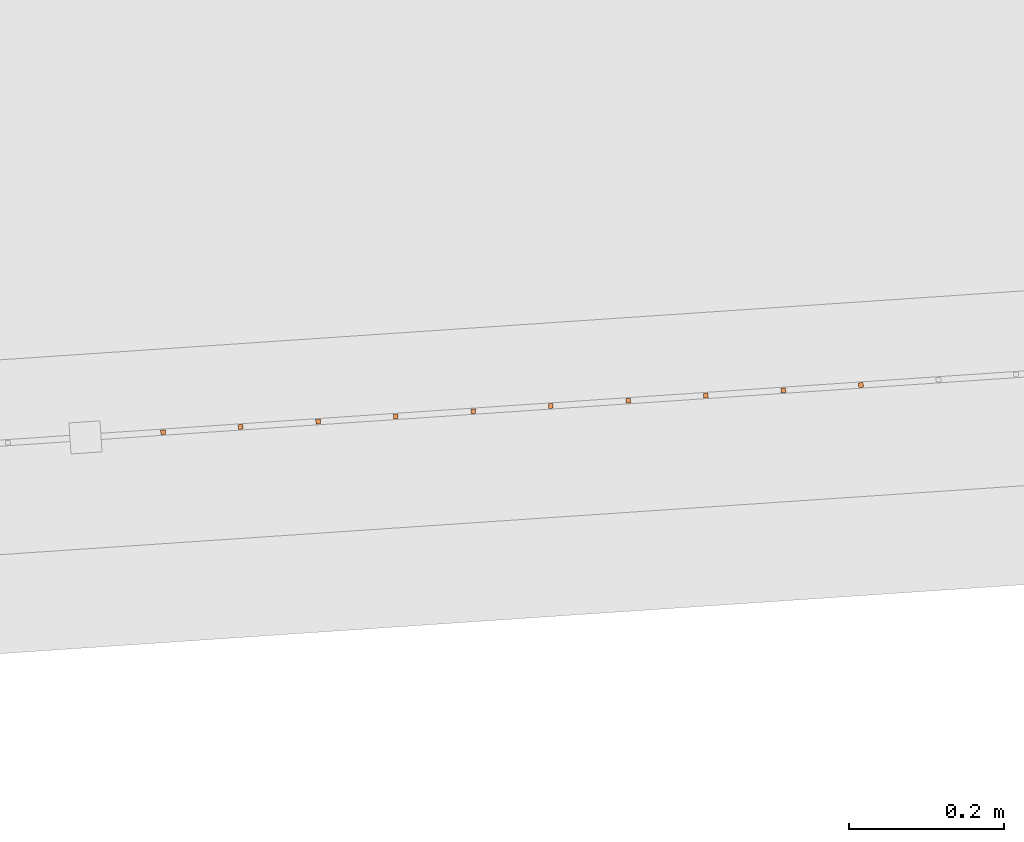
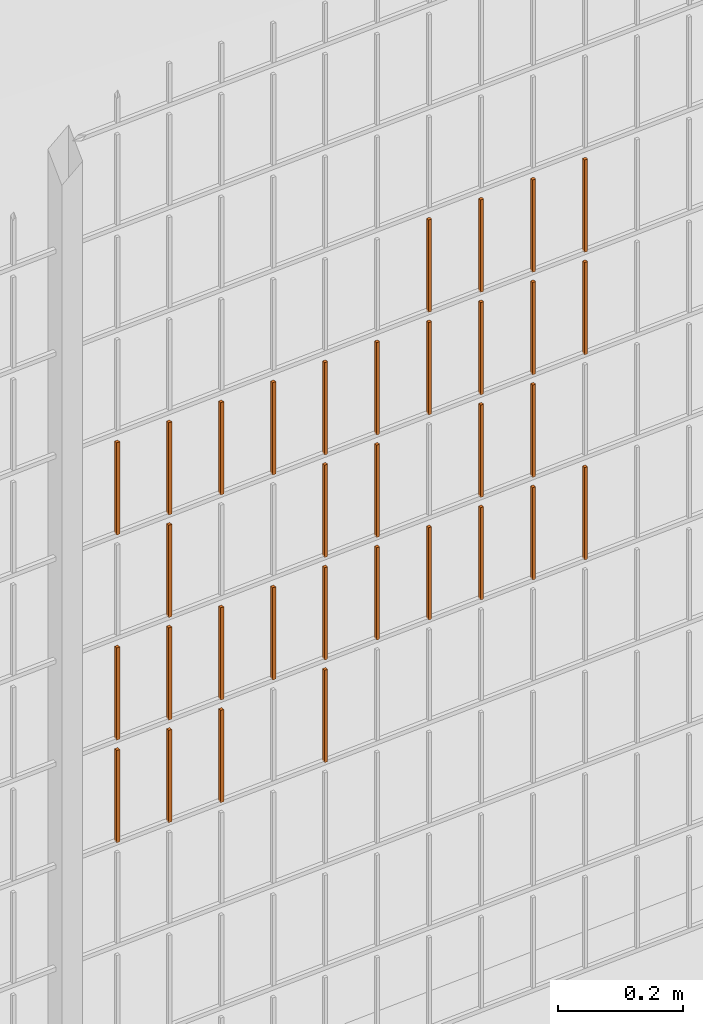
# One storey, part 308 of 1809: 33 proxies, 1 element without a shape of its own.
"""IFC2X3 building model written with IfcOpenShell, lengths in millimetres."""

from ifc_helpers import new_model, entity, si_unit, converted_unit, derived_unit, money_unit, direction, frame, origin_with_axes, place, context, subcontext, project, spatial, faceted_brep, source, transform, mapped, material, type_object, element, aggregate, save


model = new_model("IFC2X3")

# Units and contexts
model_context = context("Model", 3, precision=0.01, world=origin_with_axes(), true_north=direction((0.0, 1.0)))
body_context = subcontext(model_context, "Body", "Model", "MODEL_VIEW")
ifc_project = project(units=[si_unit("LENGTHUNIT", "METRE", prefix="MILLI"), si_unit("AREAUNIT", "SQUARE_METRE"), si_unit("VOLUMEUNIT", "CUBIC_METRE"), converted_unit("PLANEANGLEUNIT", "DEGREE", entity("IfcPlaneAngleMeasure", 0.0174532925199), si_unit("PLANEANGLEUNIT", "RADIAN"), dimensions=[0, 0, 0, 0, 0, 0, 0]), si_unit("SOLIDANGLEUNIT", "STERADIAN"), money_unit("EUR"), converted_unit("TIMEUNIT", "Year", entity("IfcTimeMeasure", 31556926.0), si_unit("TIMEUNIT", "SECOND"), dimensions=[0, 0, 1, 0, 0, 0, 0]), si_unit("MASSUNIT", "GRAM", prefix="KILO"), si_unit("THERMODYNAMICTEMPERATUREUNIT", "DEGREE_CELSIUS"), si_unit("LUMINOUSINTENSITYUNIT", "LUMEN"), si_unit("ENERGYUNIT", "JOULE", prefix="MEGA"), derived_unit("THERMALCONDUCTANCEUNIT", [(si_unit("POWERUNIT", "WATT"), 1), (si_unit("LENGTHUNIT", "METRE"), -1), (si_unit("THERMODYNAMICTEMPERATUREUNIT", "KELVIN"), -1)]), derived_unit("SPECIFICHEATCAPACITYUNIT", [(si_unit("ENERGYUNIT", "JOULE"), 1), (si_unit("MASSUNIT", "GRAM", prefix="KILO"), -1), (si_unit("THERMODYNAMICTEMPERATUREUNIT", "KELVIN"), -1)]), derived_unit("MASSDENSITYUNIT", [(si_unit("MASSUNIT", "GRAM", prefix="KILO"), 1), (si_unit("VOLUMEUNIT", "CUBIC_METRE"), -1)])], contexts=[model_context])

# Site, building, storey
site_placement = place(None, origin_with_axes())
site = spatial("IfcSite", under=ifc_project, at=site_placement, Name="Politse- ja Piirivalveameti ning Päästeameti ühishoone", CompositionType="ELEMENT")
building_placement = place(site_placement, origin_with_axes())
building = spatial("IfcBuilding", under=site, at=building_placement, Name="Politse- ja Piirivalveameti ning Päästeameti ühishoone", CompositionType="ELEMENT")
storey_placement = place(building_placement, origin_with_axes())
storey = spatial("IfcBuildingStorey", under=building, at=storey_placement, Name="Esimene korrus", CompositionType="ELEMENT", Elevation=0.0)

# Proxies
building_element_proxy_type_1 = type_object("IfcBuildingElementProxyType", Name="Railing Type", PredefinedType="NOTDEFINED")
proxy_1_placement = place(storey_placement, frame((89252.001212, -29183.4766571, 203.661247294), z_axis=(0.0, 0.0, 1.0), x_axis=(1.0, 0.0, 0.0)))
proxy_1 = element("IfcBuildingElementProxy", 1, at=proxy_1_placement, inside=storey, type_object=building_element_proxy_type_1, Name="PIIRDEAED")
ifc_material = material(Name="ET-03_Raud")
building_element_proxy_type_2 = type_object("IfcBuildingElementProxyType", Name="IfcBuildingElementProxy", PredefinedType="NOTDEFINED")
shared_shape_1 = source(origin_with_axes(), body_context, "Body", "Brep", [
    faceted_brep([(3.0, 3.0, -0.000752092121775), (-3.0, 3.0, -0.000752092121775), (-3.0, 3.0, 179.99926046), (3.0, 3.0, 179.99926046), (3.0, -3.0, 0.000752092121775), (-3.0, -3.0, 0.000752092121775), (-3.0, -3.0, 180.000764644), (3.0, -3.0, 180.000764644)], [[[0, 1, 2, 3]], [[0, 4, 5, 1]], [[1, 5, 6, 2]], [[3, 2, 6, 7]], [[4, 0, 3, 7]], [[5, 4, 7, 6]]]),
])
proxy_2_placement = place(proxy_1_placement, frame((-41532.0509529, -20103.1080672, 1216.79868415), z_axis=(0.0, 0.0, 1.0), x_axis=(1.0, 0.0, 0.0)))
proxy_2 = element("IfcBuildingElementProxy", 2, at=proxy_2_placement, type_object=building_element_proxy_type_2, material=ifc_material, Name="BALUSTER - 001", context=body_context, shape_type="MappedRepresentation", body=[
    mapped(shared_shape_1, transform((0.0, 0.0, 0.0), x_axis=(-0.0673926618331, 0.997726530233, 0.0), y_axis=(-0.997726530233, -0.0673926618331, 0.0), z_axis=(0.0, 0.0, 1.0))),
])
shared_shape_2 = source(origin_with_axes(), body_context, "Body", "Brep", [
    faceted_brep([(3.0, 3.0, -0.000752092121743), (-3.0, 3.0, -0.000752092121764), (-3.0, 3.0, 179.99926046), (3.0, 3.0, 179.99926046), (3.0, -3.0, 0.000752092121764), (-3.0, -3.0, 0.000752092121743), (-3.0, -3.0, 180.000764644), (3.0, -3.0, 180.000764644)], [[[0, 1, 2, 3]], [[0, 4, 5, 1]], [[1, 5, 6, 2]], [[3, 2, 6, 7]], [[4, 0, 3, 7]], [[5, 4, 7, 6]]]),
])
proxy_3_placement = place(proxy_1_placement, frame((-41831.368912, -20123.3258657, 1216.72347494), z_axis=(0.0, 0.0, 1.0), x_axis=(1.0, 0.0, 0.0)))
proxy_3 = element("IfcBuildingElementProxy", 3, at=proxy_3_placement, type_object=building_element_proxy_type_2, material=ifc_material, Name="BALUSTER - 001", context=body_context, shape_type="MappedRepresentation", body=[
    mapped(shared_shape_2, transform((0.0, 0.0, 0.0), x_axis=(-0.0673926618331, 0.997726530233, 0.0), y_axis=(-0.997726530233, -0.0673926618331, 0.0), z_axis=(0.0, 0.0, 1.0))),
])
shared_shape_3 = source(origin_with_axes(), body_context, "Body", "Brep", [
    faceted_brep([(3.0, 3.0, -0.000752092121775), (-3.0, 3.0, -0.000752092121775), (-3.0, 3.0, 179.99926046), (3.0, 3.0, 179.99926046), (3.0, -3.0, 0.000752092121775), (-3.0, -3.0, 0.000752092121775), (-3.0, -3.0, 180.000764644), (3.0, -3.0, 180.000764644)], [[[0, 1, 2, 3]], [[0, 4, 5, 1]], [[1, 5, 6, 2]], [[3, 2, 6, 7]], [[4, 0, 3, 7]], [[5, 4, 7, 6]]]),
])
proxy_4_placement = place(proxy_1_placement, frame((-41631.8236059, -20109.8473334, 816.773614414), z_axis=(0.0, 0.0, 1.0), x_axis=(1.0, 0.0, 0.0)))
proxy_4 = element("IfcBuildingElementProxy", 4, at=proxy_4_placement, type_object=building_element_proxy_type_2, material=ifc_material, Name="BALUSTER - 001", context=body_context, shape_type="MappedRepresentation", body=[
    mapped(shared_shape_3, transform((0.0, 0.0, 0.0), x_axis=(-0.0673926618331, 0.997726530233, 0.0), y_axis=(-0.997726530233, -0.0673926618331, 0.0), z_axis=(0.0, 0.0, 1.0))),
])
proxy_5_placement = place(proxy_1_placement, frame((-41631.8236059, -20109.8473334, 1216.77361441), z_axis=(0.0, 0.0, 1.0), x_axis=(1.0, 0.0, 0.0)))
proxy_5 = element("IfcBuildingElementProxy", 5, at=proxy_5_placement, type_object=building_element_proxy_type_2, material=ifc_material, Name="BALUSTER - 001", context=body_context, shape_type="MappedRepresentation", body=[
    mapped(shared_shape_3, transform((0.0, 0.0, 0.0), x_axis=(-0.0673926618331, 0.997726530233, 0.0), y_axis=(-0.997726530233, -0.0673926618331, 0.0), z_axis=(0.0, 0.0, 1.0))),
])
proxy_6_placement = place(proxy_1_placement, frame((-41931.141565, -20130.0651319, 1216.6984052), z_axis=(0.0, 0.0, 1.0), x_axis=(1.0, 0.0, 0.0)))
proxy_6 = element("IfcBuildingElementProxy", 6, at=proxy_6_placement, type_object=building_element_proxy_type_2, material=ifc_material, Name="BALUSTER - 001", context=body_context, shape_type="MappedRepresentation", body=[
    mapped(shared_shape_3, transform((0.0, 0.0, 0.0), x_axis=(-0.0673926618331, 0.997726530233, 0.0), y_axis=(-0.997726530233, -0.0673926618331, 0.0), z_axis=(0.0, 0.0, 1.0))),
])
shared_shape_4 = source(origin_with_axes(), body_context, "Body", "Brep", [
    faceted_brep([(3.0, 3.0, -0.000752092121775), (-3.0, 3.0, -0.000752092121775), (-3.0, 3.0, 179.99926046), (3.0, 3.0, 179.99926046), (3.0, -3.0, 0.000752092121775), (-3.0, -3.0, 0.000752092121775), (-3.0, -3.0, 180.000764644), (3.0, -3.0, 180.000764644)], [[[0, 1, 2, 3]], [[0, 4, 5, 1]], [[1, 5, 6, 2]], [[3, 2, 6, 7]], [[4, 0, 3, 7]], [[5, 4, 7, 6]]]),
])
proxy_7_placement = place(proxy_1_placement, frame((-41532.0509529, -20103.1080672, 1416.79868415), z_axis=(0.0, 0.0, 1.0), x_axis=(1.0, 0.0, 0.0)))
proxy_7 = element("IfcBuildingElementProxy", 7, at=proxy_7_placement, type_object=building_element_proxy_type_2, material=ifc_material, Name="BALUSTER - 001", context=body_context, shape_type="MappedRepresentation", body=[
    mapped(shared_shape_4, transform((0.0, 0.0, 0.0), x_axis=(-0.0673926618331, 0.997726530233, 0.0), y_axis=(-0.997726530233, -0.0673926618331, 0.0), z_axis=(0.0, 0.0, 1.0))),
])
shared_shape_5 = source(origin_with_axes(), body_context, "Body", "Brep", [
    faceted_brep([(3.0, 3.0, -0.000752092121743), (-3.0, 3.0, -0.000752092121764), (-3.0, 3.0, 179.99926046), (3.0, 3.0, 179.99926046), (3.0, -3.0, 0.000752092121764), (-3.0, -3.0, 0.000752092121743), (-3.0, -3.0, 180.000764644), (3.0, -3.0, 180.000764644)], [[[0, 1, 2, 3]], [[0, 4, 5, 1]], [[1, 5, 6, 2]], [[3, 2, 6, 7]], [[4, 0, 3, 7]], [[5, 4, 7, 6]]]),
])
proxy_8_placement = place(proxy_1_placement, frame((-41931.141565, -20130.0651319, 616.698405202), z_axis=(0.0, 0.0, 1.0), x_axis=(1.0, 0.0, 0.0)))
proxy_8 = element("IfcBuildingElementProxy", 8, at=proxy_8_placement, type_object=building_element_proxy_type_2, material=ifc_material, Name="BALUSTER - 001", context=body_context, shape_type="MappedRepresentation", body=[
    mapped(shared_shape_5, transform((0.0, 0.0, 0.0), x_axis=(-0.0673926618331, 0.997726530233, 0.0), y_axis=(-0.997726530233, -0.0673926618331, 0.0), z_axis=(0.0, 0.0, 1.0))),
])
shared_shape_6 = source(origin_with_axes(), body_context, "Body", "Brep", [
    faceted_brep([(3.0, 3.0, -0.000752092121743), (-3.0, 3.0, -0.000752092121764), (-3.0, 3.0, 179.99926046), (3.0, 3.0, 179.99926046), (3.0, -3.0, 0.000752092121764), (-3.0, -3.0, 0.000752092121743), (-3.0, -3.0, 180.000764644), (3.0, -3.0, 180.000764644)], [[[0, 1, 2, 3]], [[0, 4, 5, 1]], [[1, 5, 6, 2]], [[3, 2, 6, 7]], [[4, 0, 3, 7]], [[5, 4, 7, 6]]]),
])
proxy_9_placement = place(proxy_1_placement, frame((-41931.141565, -20130.0651319, 816.698405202), z_axis=(0.0, 0.0, 1.0), x_axis=(1.0, 0.0, 0.0)))
proxy_9 = element("IfcBuildingElementProxy", 9, at=proxy_9_placement, type_object=building_element_proxy_type_2, material=ifc_material, Name="BALUSTER - 001", context=body_context, shape_type="MappedRepresentation", body=[
    mapped(shared_shape_6, transform((0.0, 0.0, 0.0), x_axis=(-0.0673926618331, 0.997726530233, 0.0), y_axis=(-0.997726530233, -0.0673926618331, 0.0), z_axis=(0.0, 0.0, 1.0))),
])
shared_shape_7 = source(origin_with_axes(), body_context, "Body", "Brep", [
    faceted_brep([(3.0, 3.0, -0.000752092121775), (-3.0, 3.0, -0.000752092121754), (-3.0, 3.0, 179.99926046), (3.0, 3.0, 179.99926046), (3.0, -3.0, 0.000752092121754), (-3.0, -3.0, 0.000752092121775), (-3.0, -3.0, 180.000764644), (3.0, -3.0, 180.000764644)], [[[0, 1, 2, 3]], [[0, 4, 5, 1]], [[1, 5, 6, 2]], [[3, 2, 6, 7]], [[4, 0, 3, 7]], [[5, 4, 7, 6]]]),
])
proxy_10_placement = place(proxy_1_placement, frame((-42130.686871, -20143.5436643, 616.648265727), z_axis=(0.0, 0.0, 1.0), x_axis=(1.0, 0.0, 0.0)))
proxy_10 = element("IfcBuildingElementProxy", 10, at=proxy_10_placement, type_object=building_element_proxy_type_2, material=ifc_material, Name="BALUSTER - 001", context=body_context, shape_type="MappedRepresentation", body=[
    mapped(shared_shape_7, transform((0.0, 0.0, 0.0), x_axis=(-0.0673926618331, 0.997726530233, 0.0), y_axis=(-0.997726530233, -0.0673926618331, 0.0), z_axis=(0.0, 0.0, 1.0))),
])
shared_shape_8 = source(origin_with_axes(), body_context, "Body", "Brep", [
    faceted_brep([(3.0, 3.0, -0.000752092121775), (-3.0, 3.0, -0.000752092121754), (-3.0, 3.0, 179.99926046), (3.0, 3.0, 179.99926046), (3.0, -3.0, 0.000752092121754), (-3.0, -3.0, 0.000752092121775), (-3.0, -3.0, 180.000764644), (3.0, -3.0, 180.000764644)], [[[0, 1, 2, 3]], [[0, 4, 5, 1]], [[1, 5, 6, 2]], [[3, 2, 6, 7]], [[4, 0, 3, 7]], [[5, 4, 7, 6]]]),
])
proxy_11_placement = place(proxy_1_placement, frame((-42130.686871, -20143.5436643, 816.648265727), z_axis=(0.0, 0.0, 1.0), x_axis=(1.0, 0.0, 0.0)))
proxy_11 = element("IfcBuildingElementProxy", 11, at=proxy_11_placement, type_object=building_element_proxy_type_2, material=ifc_material, Name="BALUSTER - 001", context=body_context, shape_type="MappedRepresentation", body=[
    mapped(shared_shape_8, transform((0.0, 0.0, 0.0), x_axis=(-0.0673926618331, 0.997726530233, 0.0), y_axis=(-0.997726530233, -0.0673926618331, 0.0), z_axis=(0.0, 0.0, 1.0))),
])
shared_shape_9 = source(origin_with_axes(), body_context, "Body", "Brep", [
    faceted_brep([(3.0, 3.0, -0.000752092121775), (-3.0, 3.0, -0.000752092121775), (-3.0, 3.0, 179.99926046), (3.0, 3.0, 179.99926046), (3.0, -3.0, 0.000752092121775), (-3.0, -3.0, 0.000752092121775), (-3.0, -3.0, 180.000764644), (3.0, -3.0, 180.000764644)], [[[0, 1, 2, 3]], [[0, 4, 5, 1]], [[1, 5, 6, 2]], [[3, 2, 6, 7]], [[4, 0, 3, 7]], [[5, 4, 7, 6]]]),
])
proxy_12_placement = place(proxy_1_placement, frame((-41432.2782999, -20096.368801, 816.823753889), z_axis=(0.0, 0.0, 1.0), x_axis=(1.0, 0.0, 0.0)))
proxy_12 = element("IfcBuildingElementProxy", 12, at=proxy_12_placement, type_object=building_element_proxy_type_2, material=ifc_material, Name="BALUSTER - 001", context=body_context, shape_type="MappedRepresentation", body=[
    mapped(shared_shape_9, transform((0.0, 0.0, 0.0), x_axis=(-0.0673926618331, 0.997726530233, 0.0), y_axis=(-0.997726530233, -0.0673926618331, 0.0), z_axis=(0.0, 0.0, 1.0))),
])
shared_shape_10 = source(origin_with_axes(), body_context, "Body", "Brep", [
    faceted_brep([(3.0, 3.0, -0.000752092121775), (-3.0, 3.0, -0.000752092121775), (-3.0, 3.0, 179.99926046), (3.0, 3.0, 179.99926046), (3.0, -3.0, 0.000752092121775), (-3.0, -3.0, 0.000752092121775), (-3.0, -3.0, 180.000764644), (3.0, -3.0, 180.000764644)], [[[0, 1, 2, 3]], [[0, 4, 5, 1]], [[1, 5, 6, 2]], [[3, 2, 6, 7]], [[4, 0, 3, 7]], [[5, 4, 7, 6]]]),
])
proxy_13_placement = place(proxy_1_placement, frame((-41432.2782999, -20096.368801, 1216.82375389), z_axis=(0.0, 0.0, 1.0), x_axis=(1.0, 0.0, 0.0)))
proxy_13 = element("IfcBuildingElementProxy", 13, at=proxy_13_placement, type_object=building_element_proxy_type_2, material=ifc_material, Name="BALUSTER - 001", context=body_context, shape_type="MappedRepresentation", body=[
    mapped(shared_shape_10, transform((0.0, 0.0, 0.0), x_axis=(-0.0673926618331, 0.997726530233, 0.0), y_axis=(-0.997726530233, -0.0673926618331, 0.0), z_axis=(0.0, 0.0, 1.0))),
])
shared_shape_11 = source(origin_with_axes(), body_context, "Body", "Brep", [
    faceted_brep([(3.0, 3.0, -0.000752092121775), (-3.0, 3.0, -0.000752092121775), (-3.0, 3.0, 179.99926046), (3.0, 3.0, 179.99926046), (3.0, -3.0, 0.000752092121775), (-3.0, -3.0, 0.000752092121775), (-3.0, -3.0, 180.000764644), (3.0, -3.0, 180.000764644)], [[[0, 1, 2, 3]], [[0, 4, 5, 1]], [[1, 5, 6, 2]], [[3, 2, 6, 7]], [[4, 0, 3, 7]], [[5, 4, 7, 6]]]),
])
proxy_14_placement = place(proxy_1_placement, frame((-41432.2782999, -20096.368801, 1416.82375389), z_axis=(0.0, 0.0, 1.0), x_axis=(1.0, 0.0, 0.0)))
proxy_14 = element("IfcBuildingElementProxy", 14, at=proxy_14_placement, type_object=building_element_proxy_type_2, material=ifc_material, Name="BALUSTER - 001", context=body_context, shape_type="MappedRepresentation", body=[
    mapped(shared_shape_11, transform((0.0, 0.0, 0.0), x_axis=(-0.0673926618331, 0.997726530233, 0.0), y_axis=(-0.997726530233, -0.0673926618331, 0.0), z_axis=(0.0, 0.0, 1.0))),
])
shared_shape_12 = source(origin_with_axes(), body_context, "Body", "Brep", [
    faceted_brep([(3.0, 3.0, -0.000752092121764), (-3.0, 3.0, -0.000752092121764), (-3.0, 3.0, 179.99926046), (3.0, 3.0, 179.99926046), (3.0, -3.0, 0.000752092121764), (-3.0, -3.0, 0.000752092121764), (-3.0, -3.0, 180.000764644), (3.0, -3.0, 180.000764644)], [[[0, 1, 2, 3]], [[0, 4, 5, 1]], [[1, 5, 6, 2]], [[3, 2, 6, 7]], [[4, 0, 3, 7]], [[5, 4, 7, 6]]]),
])
proxy_15_placement = place(proxy_1_placement, frame((-41731.5962589, -20116.5865995, 1216.74854468), z_axis=(0.0, 0.0, 1.0), x_axis=(1.0, 0.0, 0.0)))
proxy_15 = element("IfcBuildingElementProxy", 15, at=proxy_15_placement, type_object=building_element_proxy_type_2, material=ifc_material, Name="BALUSTER - 001", context=body_context, shape_type="MappedRepresentation", body=[
    mapped(shared_shape_12, transform((0.0, 0.0, 0.0), x_axis=(-0.0673926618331, 0.997726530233, 0.0), y_axis=(-0.997726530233, -0.0673926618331, 0.0), z_axis=(0.0, 0.0, 1.0))),
])
shared_shape_13 = source(origin_with_axes(), body_context, "Body", "Brep", [
    faceted_brep([(3.0, 3.0, -0.000752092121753), (-3.0, 3.0, -0.000752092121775), (-3.0, 3.0, 179.99926046), (3.0, 3.0, 179.99926046), (3.0, -3.0, 0.000752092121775), (-3.0, -3.0, 0.000752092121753), (-3.0, -3.0, 180.000764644), (3.0, -3.0, 180.000764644)], [[[0, 1, 2, 3]], [[0, 4, 5, 1]], [[1, 5, 6, 2]], [[3, 2, 6, 7]], [[4, 0, 3, 7]], [[5, 4, 7, 6]]]),
])
proxy_16_placement = place(proxy_1_placement, frame((-41232.7329938, -20082.8902686, 1416.87389336), z_axis=(0.0, 0.0, 1.0), x_axis=(1.0, 0.0, 0.0)))
proxy_16 = element("IfcBuildingElementProxy", 16, at=proxy_16_placement, type_object=building_element_proxy_type_2, material=ifc_material, Name="BALUSTER - 001", context=body_context, shape_type="MappedRepresentation", body=[
    mapped(shared_shape_13, transform((0.0, 0.0, 0.0), x_axis=(-0.0673926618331, 0.997726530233, 0.0), y_axis=(-0.997726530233, -0.0673926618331, 0.0), z_axis=(0.0, 0.0, 1.0))),
])
shared_shape_14 = source(origin_with_axes(), body_context, "Body", "Brep", [
    faceted_brep([(3.0, 3.0, -0.000752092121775), (-3.0, 3.0, -0.000752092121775), (-3.0, 3.0, 179.99926046), (3.0, 3.0, 179.99926046), (3.0, -3.0, 0.000752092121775), (-3.0, -3.0, 0.000752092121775), (-3.0, -3.0, 180.000764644), (3.0, -3.0, 180.000764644)], [[[0, 1, 2, 3]], [[0, 4, 5, 1]], [[1, 5, 6, 2]], [[3, 2, 6, 7]], [[4, 0, 3, 7]], [[5, 4, 7, 6]]]),
])
proxy_17_placement = place(proxy_1_placement, frame((-41332.5056468, -20089.6295348, 1416.84882363), z_axis=(0.0, 0.0, 1.0), x_axis=(1.0, 0.0, 0.0)))
proxy_17 = element("IfcBuildingElementProxy", 17, at=proxy_17_placement, type_object=building_element_proxy_type_2, material=ifc_material, Name="BALUSTER - 001", context=body_context, shape_type="MappedRepresentation", body=[
    mapped(shared_shape_14, transform((0.0, 0.0, 0.0), x_axis=(-0.0673926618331, 0.997726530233, 0.0), y_axis=(-0.997726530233, -0.0673926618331, 0.0), z_axis=(0.0, 0.0, 1.0))),
])
shared_shape_15 = source(origin_with_axes(), body_context, "Body", "Brep", [
    faceted_brep([(3.0, 3.0, -0.000752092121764), (-3.0, 3.0, -0.000752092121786), (-3.0, 3.0, 179.99926046), (3.0, 3.0, 179.99926046), (3.0, -3.0, 0.000752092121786), (-3.0, -3.0, 0.000752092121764), (-3.0, -3.0, 180.000764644), (3.0, -3.0, 180.000764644)], [[[0, 1, 2, 3]], [[0, 4, 5, 1]], [[1, 5, 6, 2]], [[3, 2, 6, 7]], [[4, 0, 3, 7]], [[5, 4, 7, 6]]]),
])
proxy_18_placement = place(proxy_1_placement, frame((-41332.5056468, -20089.6295348, 816.848823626), z_axis=(0.0, 0.0, 1.0), x_axis=(1.0, 0.0, 0.0)))
proxy_18 = element("IfcBuildingElementProxy", 18, at=proxy_18_placement, type_object=building_element_proxy_type_2, material=ifc_material, Name="BALUSTER - 001", context=body_context, shape_type="MappedRepresentation", body=[
    mapped(shared_shape_15, transform((0.0, 0.0, 0.0), x_axis=(-0.0673926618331, 0.997726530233, 0.0), y_axis=(-0.997726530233, -0.0673926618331, 0.0), z_axis=(0.0, 0.0, 1.0))),
])
shared_shape_16 = source(origin_with_axes(), body_context, "Body", "Brep", [
    faceted_brep([(3.0, 3.0, -0.000752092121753), (-3.0, 3.0, -0.000752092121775), (-3.0, 3.0, 179.99926046), (3.0, 3.0, 179.99926046), (3.0, -3.0, 0.000752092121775), (-3.0, -3.0, 0.000752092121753), (-3.0, -3.0, 180.000764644), (3.0, -3.0, 180.000764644)], [[[0, 1, 2, 3]], [[0, 4, 5, 1]], [[1, 5, 6, 2]], [[3, 2, 6, 7]], [[4, 0, 3, 7]], [[5, 4, 7, 6]]]),
])
proxy_19_placement = place(proxy_1_placement, frame((-41232.7329938, -20082.8902686, 816.873893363), z_axis=(0.0, 0.0, 1.0), x_axis=(1.0, 0.0, 0.0)))
proxy_19 = element("IfcBuildingElementProxy", 19, at=proxy_19_placement, type_object=building_element_proxy_type_2, material=ifc_material, Name="BALUSTER - 001", context=body_context, shape_type="MappedRepresentation", body=[
    mapped(shared_shape_16, transform((0.0, 0.0, 0.0), x_axis=(-0.0673926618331, 0.997726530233, 0.0), y_axis=(-0.997726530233, -0.0673926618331, 0.0), z_axis=(0.0, 0.0, 1.0))),
])
proxy_20_placement = place(proxy_1_placement, frame((-41232.7329938, -20082.8902686, 1216.87389336), z_axis=(0.0, 0.0, 1.0), x_axis=(1.0, 0.0, 0.0)))
proxy_20 = element("IfcBuildingElementProxy", 20, at=proxy_20_placement, type_object=building_element_proxy_type_2, material=ifc_material, Name="BALUSTER - 001", context=body_context, shape_type="MappedRepresentation", body=[
    mapped(shared_shape_16, transform((0.0, 0.0, 0.0), x_axis=(-0.0673926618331, 0.997726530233, 0.0), y_axis=(-0.997726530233, -0.0673926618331, 0.0), z_axis=(0.0, 0.0, 1.0))),
])
shared_shape_17 = source(origin_with_axes(), body_context, "Body", "Brep", [
    faceted_brep([(3.0, 3.0, -0.000752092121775), (-3.0, 3.0, -0.000752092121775), (-3.0, 3.0, 179.99926046), (3.0, 3.0, 179.99926046), (3.0, -3.0, 0.000752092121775), (-3.0, -3.0, 0.000752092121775), (-3.0, -3.0, 180.000764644), (3.0, -3.0, 180.000764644)], [[[0, 1, 2, 3]], [[0, 4, 5, 1]], [[1, 5, 6, 2]], [[3, 2, 6, 7]], [[4, 0, 3, 7]], [[5, 4, 7, 6]]]),
])
proxy_21_placement = place(proxy_1_placement, frame((-41332.5056468, -20089.6295348, 1216.84882363), z_axis=(0.0, 0.0, 1.0), x_axis=(1.0, 0.0, 0.0)))
proxy_21 = element("IfcBuildingElementProxy", 21, at=proxy_21_placement, type_object=building_element_proxy_type_2, material=ifc_material, Name="BALUSTER - 001", context=body_context, shape_type="MappedRepresentation", body=[
    mapped(shared_shape_17, transform((0.0, 0.0, 0.0), x_axis=(-0.0673926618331, 0.997726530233, 0.0), y_axis=(-0.997726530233, -0.0673926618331, 0.0), z_axis=(0.0, 0.0, 1.0))),
])
shared_shape_18 = source(origin_with_axes(), body_context, "Body", "Brep", [
    faceted_brep([(3.0, 3.0, -0.000752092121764), (-3.0, 3.0, -0.000752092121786), (-3.0, 3.0, 179.99926046), (3.0, 3.0, 179.99926046), (3.0, -3.0, 0.000752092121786), (-3.0, -3.0, 0.000752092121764), (-3.0, -3.0, 180.000764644), (3.0, -3.0, 180.000764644)], [[[0, 1, 2, 3]], [[0, 4, 5, 1]], [[1, 5, 6, 2]], [[3, 2, 6, 7]], [[4, 0, 3, 7]], [[5, 4, 7, 6]]]),
])
proxy_22_placement = place(proxy_1_placement, frame((-41532.0509529, -20103.1080672, 816.798684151), z_axis=(0.0, 0.0, 1.0), x_axis=(1.0, 0.0, 0.0)))
proxy_22 = element("IfcBuildingElementProxy", 22, at=proxy_22_placement, type_object=building_element_proxy_type_2, material=ifc_material, Name="BALUSTER - 001", context=body_context, shape_type="MappedRepresentation", body=[
    mapped(shared_shape_18, transform((0.0, 0.0, 0.0), x_axis=(-0.0673926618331, 0.997726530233, 0.0), y_axis=(-0.997726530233, -0.0673926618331, 0.0), z_axis=(0.0, 0.0, 1.0))),
])
shared_shape_19 = source(origin_with_axes(), body_context, "Body", "Brep", [
    faceted_brep([(3.0, 3.0, -0.000752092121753), (-3.0, 3.0, -0.000752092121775), (-3.0, 3.0, 179.99926046), (3.0, 3.0, 179.99926046), (3.0, -3.0, 0.000752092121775), (-3.0, -3.0, 0.000752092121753), (-3.0, -3.0, 180.000764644), (3.0, -3.0, 180.000764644)], [[[0, 1, 2, 3]], [[0, 4, 5, 1]], [[1, 5, 6, 2]], [[3, 2, 6, 7]], [[4, 0, 3, 7]], [[5, 4, 7, 6]]]),
])
proxy_23_placement = place(proxy_1_placement, frame((-41731.5962589, -20116.5865995, 616.748544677), z_axis=(0.0, 0.0, 1.0), x_axis=(1.0, 0.0, 0.0)))
proxy_23 = element("IfcBuildingElementProxy", 23, at=proxy_23_placement, type_object=building_element_proxy_type_2, material=ifc_material, Name="BALUSTER - 001", context=body_context, shape_type="MappedRepresentation", body=[
    mapped(shared_shape_19, transform((0.0, 0.0, 0.0), x_axis=(-0.0673926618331, 0.997726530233, 0.0), y_axis=(-0.997726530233, -0.0673926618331, 0.0), z_axis=(0.0, 0.0, 1.0))),
])
shared_shape_20 = source(origin_with_axes(), body_context, "Body", "Brep", [
    faceted_brep([(3.0, 3.0, -0.000752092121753), (-3.0, 3.0, -0.000752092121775), (-3.0, 3.0, 179.99926046), (3.0, 3.0, 179.99926046), (3.0, -3.0, 0.000752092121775), (-3.0, -3.0, 0.000752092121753), (-3.0, -3.0, 180.000764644), (3.0, -3.0, 180.000764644)], [[[0, 1, 2, 3]], [[0, 4, 5, 1]], [[1, 5, 6, 2]], [[3, 2, 6, 7]], [[4, 0, 3, 7]], [[5, 4, 7, 6]]]),
])
proxy_24_placement = place(proxy_1_placement, frame((-41731.5962589, -20116.5865995, 816.748544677), z_axis=(0.0, 0.0, 1.0), x_axis=(1.0, 0.0, 0.0)))
proxy_24 = element("IfcBuildingElementProxy", 24, at=proxy_24_placement, type_object=building_element_proxy_type_2, material=ifc_material, Name="BALUSTER - 001", context=body_context, shape_type="MappedRepresentation", body=[
    mapped(shared_shape_20, transform((0.0, 0.0, 0.0), x_axis=(-0.0673926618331, 0.997726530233, 0.0), y_axis=(-0.997726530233, -0.0673926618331, 0.0), z_axis=(0.0, 0.0, 1.0))),
])
shared_shape_21 = source(origin_with_axes(), body_context, "Body", "Brep", [
    faceted_brep([(3.0, 3.0, -0.000752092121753), (-3.0, 3.0, -0.000752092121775), (-3.0, 3.0, 179.99926046), (3.0, 3.0, 179.99926046), (3.0, -3.0, 0.000752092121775), (-3.0, -3.0, 0.000752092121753), (-3.0, -3.0, 180.000764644), (3.0, -3.0, 180.000764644)], [[[0, 1, 2, 3]], [[0, 4, 5, 1]], [[1, 5, 6, 2]], [[3, 2, 6, 7]], [[4, 0, 3, 7]], [[5, 4, 7, 6]]]),
])
proxy_25_placement = place(proxy_1_placement, frame((-42030.914218, -20136.8043981, 816.673335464), z_axis=(0.0, 0.0, 1.0), x_axis=(1.0, 0.0, 0.0)))
proxy_25 = element("IfcBuildingElementProxy", 25, at=proxy_25_placement, type_object=building_element_proxy_type_2, material=ifc_material, Name="BALUSTER - 001", context=body_context, shape_type="MappedRepresentation", body=[
    mapped(shared_shape_21, transform((0.0, 0.0, 0.0), x_axis=(-0.0673926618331, 0.997726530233, 0.0), y_axis=(-0.997726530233, -0.0673926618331, 0.0), z_axis=(0.0, 0.0, 1.0))),
])
proxy_26_placement = place(proxy_1_placement, frame((-42030.914218, -20136.8043981, 1216.67333546), z_axis=(0.0, 0.0, 1.0), x_axis=(1.0, 0.0, 0.0)))
proxy_26 = element("IfcBuildingElementProxy", 26, at=proxy_26_placement, type_object=building_element_proxy_type_2, material=ifc_material, Name="BALUSTER - 001", context=body_context, shape_type="MappedRepresentation", body=[
    mapped(shared_shape_21, transform((0.0, 0.0, 0.0), x_axis=(-0.0673926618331, 0.997726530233, 0.0), y_axis=(-0.997726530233, -0.0673926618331, 0.0), z_axis=(0.0, 0.0, 1.0))),
])
shared_shape_22 = source(origin_with_axes(), body_context, "Body", "Brep", [
    faceted_brep([(3.0, 3.0, -0.000752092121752), (-3.0, 3.0, -0.000752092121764), (-3.00000000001, 2.99999999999, 179.99926046), (2.99999999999, 2.99999999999, 179.99926046), (3.0, -3.0, 0.000752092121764), (-3.0, -3.0, 0.000752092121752), (-3.00000000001, -3.00000000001, 180.000764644), (2.99999999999, -3.00000000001, 180.000764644)], [[[0, 1, 2, 3]], [[0, 4, 5, 1]], [[1, 5, 6, 2]], [[3, 2, 6, 7]], [[4, 0, 3, 7]], [[5, 4, 7, 6]]]),
])
proxy_27_placement = place(proxy_1_placement, frame((-42030.914218, -20136.8043981, 1016.67333546), z_axis=(0.0, 0.0, 1.0), x_axis=(1.0, 0.0, 0.0)))
proxy_27 = element("IfcBuildingElementProxy", 27, at=proxy_27_placement, type_object=building_element_proxy_type_2, material=ifc_material, Name="BALUSTER - 001", context=body_context, shape_type="MappedRepresentation", body=[
    mapped(shared_shape_22, transform((0.0, 0.0, 0.0), x_axis=(-0.0673926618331, 0.997726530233, 0.0), y_axis=(-0.997726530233, -0.0673926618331, 0.0), z_axis=(0.0, 0.0, 1.0))),
])
shared_shape_23 = source(origin_with_axes(), body_context, "Body", "Brep", [
    faceted_brep([(3.0, 3.0, -0.000752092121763), (-3.0, 3.0, -0.000752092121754), (-3.00000000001, 2.99999999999, 179.99926046), (2.99999999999, 2.99999999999, 179.99926046), (3.0, -3.0, 0.000752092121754), (-3.0, -3.0, 0.000752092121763), (-3.00000000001, -3.00000000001, 180.000764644), (2.99999999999, -3.00000000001, 180.000764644)], [[[0, 1, 2, 3]], [[0, 4, 5, 1]], [[1, 5, 6, 2]], [[3, 2, 6, 7]], [[4, 0, 3, 7]], [[5, 4, 7, 6]]]),
])
proxy_28_placement = place(proxy_1_placement, frame((-41332.5056468, -20089.6295348, 1016.84882363), z_axis=(0.0, 0.0, 1.0), x_axis=(1.0, 0.0, 0.0)))
proxy_28 = element("IfcBuildingElementProxy", 28, at=proxy_28_placement, type_object=building_element_proxy_type_2, material=ifc_material, Name="BALUSTER - 001", context=body_context, shape_type="MappedRepresentation", body=[
    mapped(shared_shape_23, transform((0.0, 0.0, 0.0), x_axis=(-0.0673926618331, 0.997726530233, 0.0), y_axis=(-0.997726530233, -0.0673926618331, 0.0), z_axis=(0.0, 0.0, 1.0))),
])
shared_shape_24 = source(origin_with_axes(), body_context, "Body", "Brep", [
    faceted_brep([(3.0, 3.0, -0.000752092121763), (-3.0, 3.0, -0.000752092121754), (-3.00000000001, 2.99999999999, 179.99926046), (2.99999999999, 2.99999999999, 179.99926046), (3.0, -3.0, 0.000752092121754), (-3.0, -3.0, 0.000752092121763), (-3.00000000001, -3.00000000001, 180.000764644), (2.99999999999, -3.00000000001, 180.000764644)], [[[0, 1, 2, 3]], [[0, 4, 5, 1]], [[1, 5, 6, 2]], [[3, 2, 6, 7]], [[4, 0, 3, 7]], [[5, 4, 7, 6]]]),
])
proxy_29_placement = place(proxy_1_placement, frame((-41631.8236059, -20109.8473334, 1016.77361441), z_axis=(0.0, 0.0, 1.0), x_axis=(1.0, 0.0, 0.0)))
proxy_29 = element("IfcBuildingElementProxy", 29, at=proxy_29_placement, type_object=building_element_proxy_type_2, material=ifc_material, Name="BALUSTER - 001", context=body_context, shape_type="MappedRepresentation", body=[
    mapped(shared_shape_24, transform((0.0, 0.0, 0.0), x_axis=(-0.0673926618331, 0.997726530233, 0.0), y_axis=(-0.997726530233, -0.0673926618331, 0.0), z_axis=(0.0, 0.0, 1.0))),
])
shared_shape_25 = source(origin_with_axes(), body_context, "Body", "Brep", [
    faceted_brep([(3.0, 3.0, -0.000752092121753), (-3.0, 3.0, -0.000752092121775), (-3.0, 3.0, 179.99926046), (3.0, 3.0, 179.99926046), (3.0, -3.0, 0.000752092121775), (-3.0, -3.0, 0.000752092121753), (-3.0, -3.0, 180.000764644), (3.0, -3.0, 180.000764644)], [[[0, 1, 2, 3]], [[0, 4, 5, 1]], [[1, 5, 6, 2]], [[3, 2, 6, 7]], [[4, 0, 3, 7]], [[5, 4, 7, 6]]]),
])
proxy_30_placement = place(proxy_1_placement, frame((-42030.914218, -20136.8043981, 616.673335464), z_axis=(0.0, 0.0, 1.0), x_axis=(1.0, 0.0, 0.0)))
proxy_30 = element("IfcBuildingElementProxy", 30, at=proxy_30_placement, type_object=building_element_proxy_type_2, material=ifc_material, Name="BALUSTER - 001", context=body_context, shape_type="MappedRepresentation", body=[
    mapped(shared_shape_25, transform((0.0, 0.0, 0.0), x_axis=(-0.0673926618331, 0.997726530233, 0.0), y_axis=(-0.997726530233, -0.0673926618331, 0.0), z_axis=(0.0, 0.0, 1.0))),
])
shared_shape_26 = source(origin_with_axes(), body_context, "Body", "Brep", [
    faceted_brep([(3.0, 3.0, -0.000752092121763), (-3.0, 3.0, -0.000752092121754), (-3.00000000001, 2.99999999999, 179.99926046), (2.99999999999, 2.99999999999, 179.99926046), (3.0, -3.0, 0.000752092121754), (-3.0, -3.0, 0.000752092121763), (-3.00000000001, -3.00000000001, 180.000764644), (2.99999999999, -3.00000000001, 180.000764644)], [[[0, 1, 2, 3]], [[0, 4, 5, 1]], [[1, 5, 6, 2]], [[3, 2, 6, 7]], [[4, 0, 3, 7]], [[5, 4, 7, 6]]]),
])
proxy_31_placement = place(proxy_1_placement, frame((-41432.2782999, -20096.368801, 1016.82375389), z_axis=(0.0, 0.0, 1.0), x_axis=(1.0, 0.0, 0.0)))
proxy_31 = element("IfcBuildingElementProxy", 31, at=proxy_31_placement, type_object=building_element_proxy_type_2, material=ifc_material, Name="BALUSTER - 001", context=body_context, shape_type="MappedRepresentation", body=[
    mapped(shared_shape_26, transform((0.0, 0.0, 0.0), x_axis=(-0.0673926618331, 0.997726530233, 0.0), y_axis=(-0.997726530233, -0.0673926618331, 0.0), z_axis=(0.0, 0.0, 1.0))),
])
proxy_32_placement = place(proxy_1_placement, frame((-41731.5962589, -20116.5865995, 1016.74854468), z_axis=(0.0, 0.0, 1.0), x_axis=(1.0, 0.0, 0.0)))
proxy_32 = element("IfcBuildingElementProxy", 32, at=proxy_32_placement, type_object=building_element_proxy_type_2, material=ifc_material, Name="BALUSTER - 001", context=body_context, shape_type="MappedRepresentation", body=[
    mapped(shared_shape_26, transform((0.0, 0.0, 0.0), x_axis=(-0.0673926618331, 0.997726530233, 0.0), y_axis=(-0.997726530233, -0.0673926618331, 0.0), z_axis=(0.0, 0.0, 1.0))),
])
shared_shape_27 = source(origin_with_axes(), body_context, "Body", "Brep", [
    faceted_brep([(3.0, 3.0, -0.000752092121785), (-3.0, 3.0, -0.000752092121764), (-3.0, 3.0, 179.99926046), (3.0, 3.0, 179.99926046), (3.0, -3.0, 0.000752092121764), (-3.0, -3.0, 0.000752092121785), (-3.0, -3.0, 180.000764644), (3.0, -3.0, 180.000764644)], [[[0, 1, 2, 3]], [[0, 4, 5, 1]], [[1, 5, 6, 2]], [[3, 2, 6, 7]], [[4, 0, 3, 7]], [[5, 4, 7, 6]]]),
])
proxy_33_placement = place(proxy_1_placement, frame((-42130.686871, -20143.5436643, 1216.64826573), z_axis=(0.0, 0.0, 1.0), x_axis=(1.0, 0.0, 0.0)))
proxy_33 = element("IfcBuildingElementProxy", 33, at=proxy_33_placement, type_object=building_element_proxy_type_2, material=ifc_material, Name="BALUSTER - 001", context=body_context, shape_type="MappedRepresentation", body=[
    mapped(shared_shape_27, transform((0.0, 0.0, 0.0), x_axis=(-0.0673926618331, 0.997726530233, 0.0), y_axis=(-0.997726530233, -0.0673926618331, 0.0), z_axis=(0.0, 0.0, 1.0))),
])
shared_shape_28 = source(origin_with_axes(), body_context, "Body", "Brep", [
    faceted_brep([(3.0, 3.0, -0.000752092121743), (-3.0, 3.0, -0.000752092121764), (-3.0, 3.0, 179.99926046), (3.0, 3.0, 179.99926046), (3.0, -3.0, 0.000752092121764), (-3.0, -3.0, 0.000752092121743), (-3.0, -3.0, 180.000764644), (3.0, -3.0, 180.000764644)], [[[0, 1, 2, 3]], [[0, 4, 5, 1]], [[1, 5, 6, 2]], [[3, 2, 6, 7]], [[4, 0, 3, 7]], [[5, 4, 7, 6]]]),
])
proxy_34_placement = place(proxy_1_placement, frame((-41831.368912, -20123.3258657, 816.723474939), z_axis=(0.0, 0.0, 1.0), x_axis=(1.0, 0.0, 0.0)))
proxy_34 = element("IfcBuildingElementProxy", 34, at=proxy_34_placement, type_object=building_element_proxy_type_2, material=ifc_material, Name="BALUSTER - 001", context=body_context, shape_type="MappedRepresentation", body=[
    mapped(shared_shape_28, transform((0.0, 0.0, 0.0), x_axis=(-0.0673926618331, 0.997726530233, 0.0), y_axis=(-0.997726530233, -0.0673926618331, 0.0), z_axis=(0.0, 0.0, 1.0))),
])
aggregate(proxy_1, [proxy_23, proxy_8, proxy_30, proxy_10, proxy_19, proxy_18, proxy_12, proxy_22, proxy_4, proxy_24, proxy_34, proxy_9, proxy_25, proxy_11, proxy_28, proxy_31, proxy_29, proxy_32, proxy_27, proxy_20, proxy_21, proxy_13, proxy_2, proxy_5, proxy_15, proxy_3, proxy_6, proxy_26, proxy_33, proxy_16, proxy_17, proxy_14, proxy_7])

save(model, "model.ifc")
